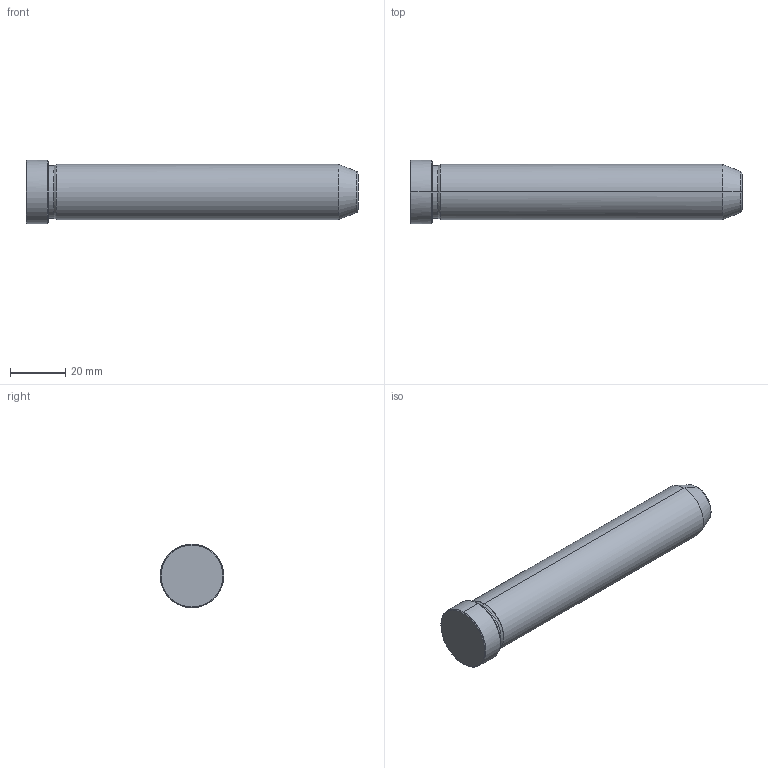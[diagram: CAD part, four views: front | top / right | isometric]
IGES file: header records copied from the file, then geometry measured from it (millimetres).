
Start section: START RECORD GO HERE.
Global section: file name: 549-20X120.igs; native system: DASSAULT SYSTEMES CATIA V5 R20 - www.3ds.com; preprocessor: CATIA Version 5 Release 20 ; author: Utente; organization: NB04-ASUS; date: 20211211.105337; units: millimetre
Bounding box: 120 x 23 x 23 mm (x, y, z)
Surface area: 8259.1 mm2 (no closed solid volume)
Topology: 0 solids, 0 shells, 19 faces, 112 edges, 112 vertices
Faces by surface type: revolution 16, plane 3
